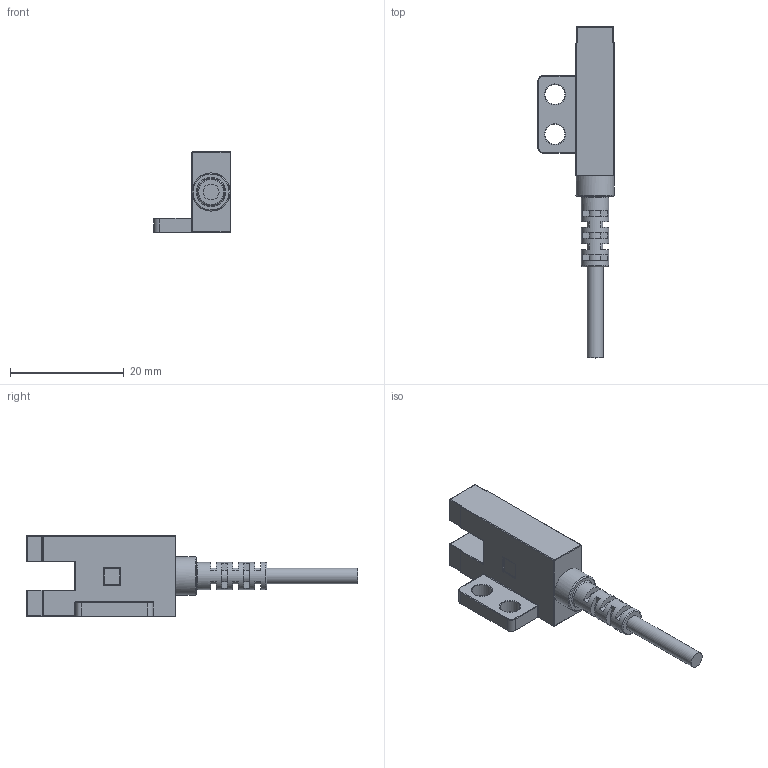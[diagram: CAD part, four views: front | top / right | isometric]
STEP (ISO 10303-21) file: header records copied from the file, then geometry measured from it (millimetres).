
FILE_DESCRIPTION(/* description */ (''),/* implementation_level */ '2;1');
FILE_NAME(/* name */ 'F:\HUAYIFENG\02)HUAYIFENG_3D_MODE\HUAYIFENG_3D_MODE_\X2\69FD578B51497535\X0\\HUAYIFENG_3D_MODE_槽型光电_LU67X\X2\7CFB5217\X0\\槽型光电_LU67系列_销售用\LU676\LU676.stp',/* time_stamp */ '2017-11-28T14:55:28+08:00',/* author */ ('fengjiarun'),/* organization */ (''),/* preprocessor_version */ 'ST-DEVELOPER v16.5',/* originating_system */ 'Autodesk Inventor 2017',/* authorisation */ '');
FILE_SCHEMA (('AUTOMOTIVE_DESIGN { 1 0 10303 214 3 1 1 }'));
Length unit declared in the file: millimetre
Products named in the file (1): 零件25
Bounding box: 13.4 x 58.3 x 14.2 mm (x, y, z)
Volume: 2753.3 mm3; surface area: 2074.1 mm2
Topology: 1 solids, 2 shells, 212 faces, 490 edges, 292 vertices
Faces by surface type: plane 90, cylinder 79, torus 22, sphere 17, bspline 4
Full cylindrical faces by diameter (mm): 2.8 x2, 3.5 x2, 4.7 x1, 4.8 x1, 6.7 x1
Entity records: 5918 total; most frequent: DIRECTION 1076, CARTESIAN_POINT 1038, ORIENTED_EDGE 920, EDGE_CURVE 460, AXIS2_PLACEMENT_3D 408, VERTEX_POINT 284, LINE 260, VECTOR 260
